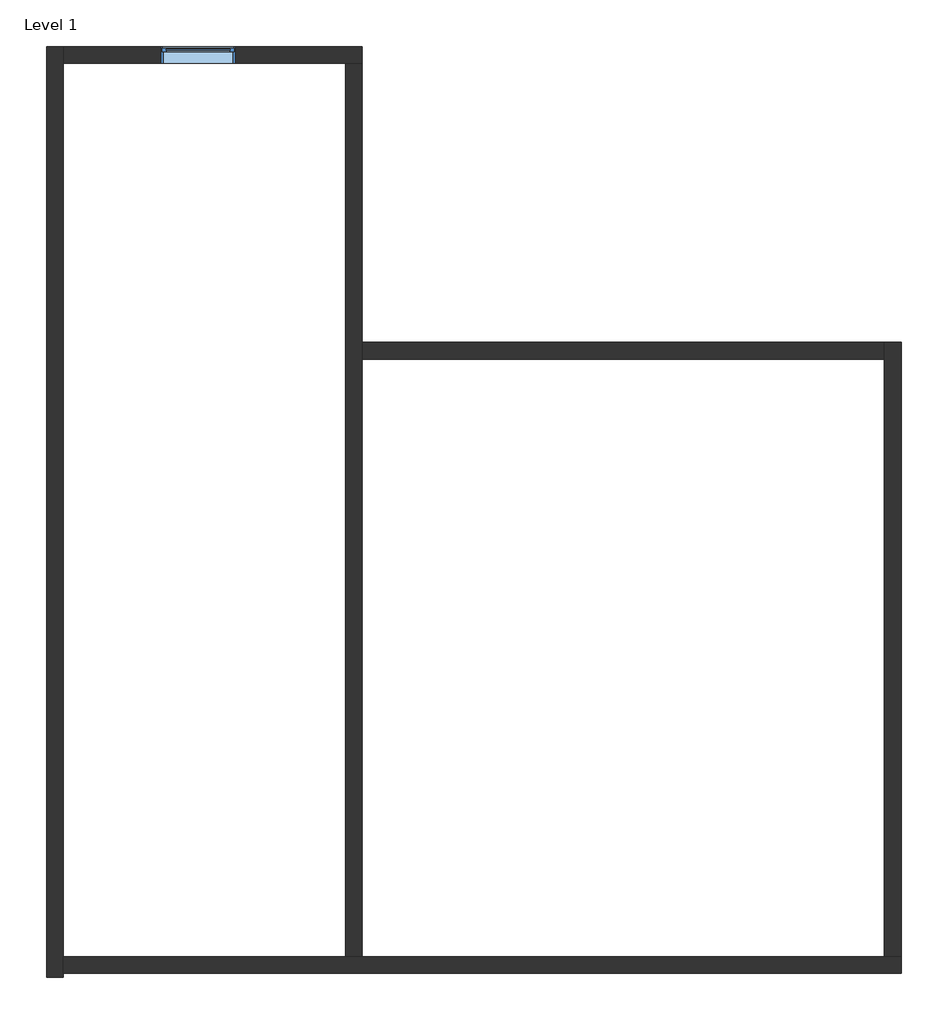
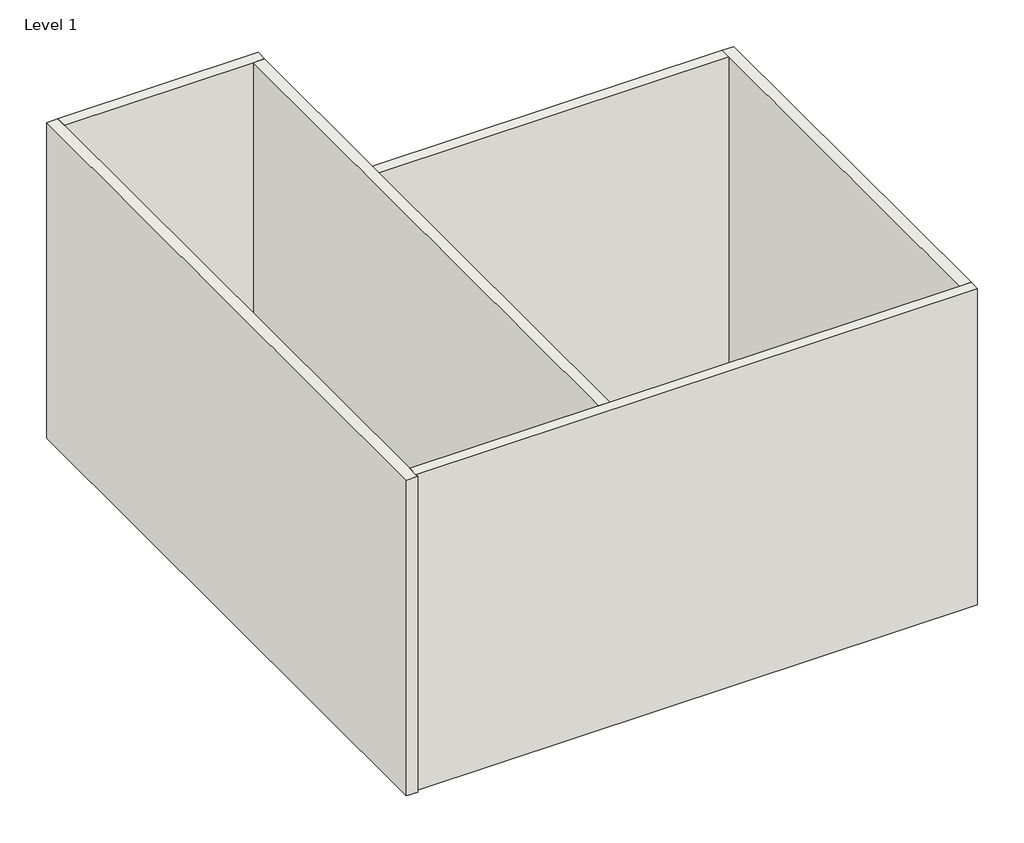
# One storey: 6 walls, 1 window.
"""IFC4 building model written with IfcOpenShell, lengths in millimetres."""

from ifc_helpers import new_model, si_unit, origin, origin_with_axes, place, context, project, spatial, polyline, outline, extrude, faceted_brep, transform, mapped, element, save
from components import window_e2841890

model = new_model("IFC4")

# Units and contexts
model_context = context("Model", 3, world=origin())
ifc_project = project(units=[si_unit("LENGTHUNIT", "METRE", prefix="MILLI")], contexts=[model_context])

# Site, building, storey
site = spatial("IfcSite", under=ifc_project)
building = spatial("IfcBuilding", under=site)
storey = spatial("IfcBuildingStorey", under=building, Name="Level 1", Elevation=0.0)

# Walls
placement = place(None, origin())
element("IfcWall", 1, ObjectType="Generic - 8\"", at=placement, inside=storey, context=model_context, shape_type="Brep", body=[
    faceted_brep([(-6725.0507111, 14372.9537714, 0.0), (-6725.0507111, 3450.9537714, 0.0), (-6725.0507111, 3450.9537714, 6096.0), (-6725.0507111, 14372.9537714, 6096.0), (-6521.8507111, 14372.9537714, 0.0), (-6521.8507111, 14372.9537714, 6096.0), (-6521.8507111, 10959.7208278, 6096.0), (-6521.8507111, 10756.5208278, 6096.0), (-6521.8507111, 3450.9537714, 6096.0), (-6521.8507111, 3450.9537714, 0.0), (-6521.8507111, 10756.5208278, 0.0), (-6521.8507111, 10959.7208278, 0.0)], [[[0, 1, 2, 3]], [[4, 5, 6, 7, 8, 9, 10, 11]], [[1, 0, 4, 11, 10, 9]], [[3, 2, 8, 7, 6, 5]], [[2, 1, 9, 8]], [[0, 3, 5, 4]]]),
])
element("IfcWall", 2, ObjectType="Generic - 8\"", at=placement, inside=storey, context=model_context, shape_type="Brep", body=[
    faceted_brep([(-10179.4507111, 3247.7537714, 0.0), (69.3788099, 3247.7537714, 0.0), (69.3788099, 3247.7537714, 6096.0), (-10179.4507111, 3247.7537714, 6096.0), (-10179.4507111, 3450.9537714, 0.0), (-10179.4507111, 3450.9537714, 6096.0), (-6725.0507111, 3450.9537714, 6096.0), (-6521.8507111, 3450.9537714, 6096.0), (-133.8211901, 3450.9537714, 6096.0), (69.3788099, 3450.9537714, 6096.0), (69.3788099, 3450.9537714, 0.0), (-133.8211901, 3450.9537714, 0.0), (-6521.8507111, 3450.9537714, 0.0), (-6725.0507111, 3450.9537714, 0.0)], [[[0, 1, 2, 3]], [[4, 5, 6, 7, 8, 9, 10, 11, 12, 13]], [[1, 0, 4, 13, 12, 11, 10]], [[3, 2, 9, 8, 7, 6, 5]], [[2, 1, 10, 9]], [[0, 3, 5, 4]]]),
])
element("IfcWall", 3, ObjectType="Generic - 8\"", at=placement, inside=storey, context=model_context, shape_type="Brep", body=[
    faceted_brep([(69.3788099, 3450.9537714, 0.0), (69.3788099, 10959.7208278, 0.0), (69.3788099, 10959.7208278, 6096.0), (69.3788099, 3450.9537714, 6096.0), (-133.8211901, 3450.9537714, 0.0), (-133.8211901, 3450.9537714, 6096.0), (-133.8211901, 10756.5208278, 6096.0), (-133.8211901, 10959.7208278, 6096.0), (-133.8211901, 10959.7208278, 0.0), (-133.8211901, 10756.5208278, 0.0)], [[[0, 1, 2, 3]], [[4, 5, 6, 7, 8, 9]], [[1, 0, 4, 9, 8]], [[3, 2, 7, 6, 5]], [[0, 3, 5, 4]], [[2, 1, 8, 7]]]),
])
element("IfcWall", 4, ObjectType="Generic - 8\"", at=placement, inside=storey, context=model_context, shape_type="SweptSolid", body=[
    extrude(outline(polyline([(-133.8211901, 10756.5208278), (-6521.8507111, 10756.5208278), (-6521.8507111, 10959.7208278), (-133.8211901, 10959.7208278), (-133.8211901, 10756.5208278)])), origin_with_axes(), (0.0, 0.0, 1.0), 6096.0),
])
element("IfcWall", 5, ObjectType="Generic - 8\"", at=placement, inside=storey, context=model_context, shape_type="Brep", body=[
    faceted_brep([(-10179.4507111, 3196.9537714, 0.0), (-10179.4507111, 3247.7537714, 0.0), (-10179.4507111, 3450.9537714, 0.0), (-10179.4507111, 14372.9537714, 0.0), (-10179.4507111, 14576.1537714, 0.0), (-10179.4507111, 14576.1537714, 6096.0), (-10179.4507111, 14372.9537714, 6096.0), (-10179.4507111, 3450.9537714, 6096.0), (-10179.4507111, 3247.7537714, 6096.0), (-10179.4507111, 3196.9537714, 6096.0), (-10382.6507111, 3196.9537714, 0.0), (-10382.6507111, 3196.9537714, 6096.0), (-10382.6507111, 14576.1537714, 6096.0), (-10382.6507111, 14576.1537714, 0.0)], [[[0, 1, 2, 3, 4, 5, 6, 7, 8, 9]], [[10, 11, 12, 13]], [[4, 3, 2, 1, 0, 10, 13]], [[9, 8, 7, 6, 5, 12, 11]], [[0, 9, 11, 10]], [[5, 4, 13, 12]]]),
])
element("IfcWall", 6, ObjectType="Generic - 8\"", at=placement, inside=storey, context=model_context, shape_type="Brep", body=[
    faceted_brep([(-10179.4507111, 14372.9537714, 0.0), (-6725.0507111, 14372.9537714, 0.0), (-6521.8507111, 14372.9537714, 0.0), (-6521.8507111, 14372.9537714, 6096.0), (-6725.0507111, 14372.9537714, 6096.0), (-10179.4507111, 14372.9537714, 6096.0), (-8071.2507111, 14372.9537714, 2133.6), (-8071.2507111, 14372.9537714, 914.4), (-8985.6507111, 14372.9537714, 914.4), (-8985.6507111, 14372.9537714, 2133.6), (-10179.4507111, 14576.1537714, 0.0), (-10179.4507111, 14576.1537714, 6096.0), (-6521.8507111, 14576.1537714, 6096.0), (-6521.8507111, 14576.1537714, 0.0), (-8071.2507111, 14576.1537714, 2133.6), (-8985.6507111, 14576.1537714, 2133.6), (-8985.6507111, 14576.1537714, 914.4), (-8071.2507111, 14576.1537714, 914.4)], [[[0, 1, 2, 3, 4, 5], [6, 7, 8, 9]], [[10, 11, 12, 13], [14, 15, 16, 17]], [[2, 1, 0, 10, 13]], [[5, 4, 3, 12, 11]], [[0, 5, 11, 10]], [[7, 6, 14, 17]], [[8, 7, 17, 16]], [[9, 8, 16, 15]], [[6, 9, 15, 14]], [[3, 2, 13, 12]]]),
])

# Window
window_shape = window_e2841890(model_context)
element("IfcWindow", 7, ObjectType="Fixed : 36\" x 48\"", at=placement, inside=storey, context=model_context, shape_type="MappedRepresentation", body=[
    mapped(window_shape, transform((-8490.3507111, 14474.5537714, 0.0), x_axis=(1.0, 0.0, 0.0), y_axis=(0.0, 1.0, 0.0), z_axis=(0.0, 0.0, 1.0))),
])

save(model, "model.ifc")
